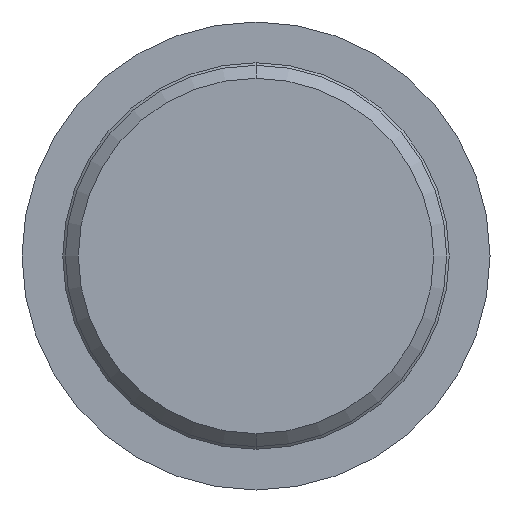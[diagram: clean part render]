
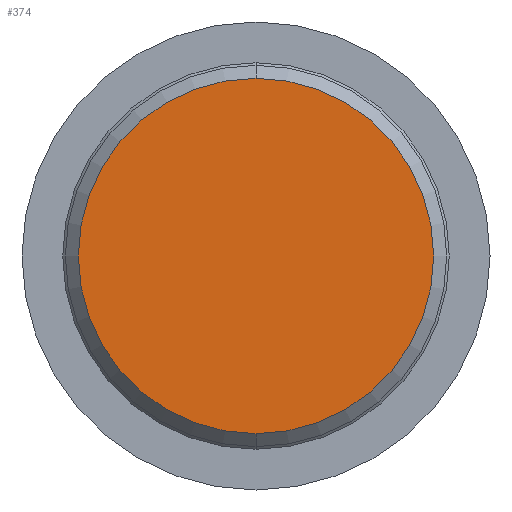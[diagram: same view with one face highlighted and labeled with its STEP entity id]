
A CAD part, front view. The second image highlights one B-rep face of the part: STEP entity #374.
In plain terms, the highlighted planar face has unit normal (0, -1, 0).
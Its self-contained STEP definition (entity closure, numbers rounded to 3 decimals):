
#9 = EDGE_CURVE ( 'NONE', #747, #124, #607, .T. ) ;
#16 = EDGE_LOOP ( 'NONE', ( #514, #234 ) ) ;
#36 = AXIS2_PLACEMENT_3D ( 'NONE', #108, #233, #413 ) ;
#108 = CARTESIAN_POINT ( 'NONE',  ( 10.25, 0., 0. ) ) ;
#124 = VERTEX_POINT ( 'NONE', #610 ) ;
#137 = DIRECTION ( 'NONE',  ( 0., 1., 0. ) ) ;
#159 = DIRECTION ( 'NONE',  ( 0., 0., 1. ) ) ;
#193 = AXIS2_PLACEMENT_3D ( 'NONE', #213, #634, #159 ) ;
#206 = EDGE_CURVE ( 'NONE', #124, #747, #363, .T. ) ;
#213 = CARTESIAN_POINT ( 'NONE',  ( 0., 0., 0. ) ) ;
#233 = DIRECTION ( 'NONE',  ( 0., 1., 0. ) ) ;
#234 = ORIENTED_EDGE ( 'NONE', *, *, #206, .F. ) ;
#252 = CARTESIAN_POINT ( 'NONE',  ( 0., 0., 10.25 ) ) ;
#275 = AXIS2_PLACEMENT_3D ( 'NONE', #314, #137, #669 ) ;
#314 = CARTESIAN_POINT ( 'NONE',  ( 0., 0., 0. ) ) ;
#363 = CIRCLE ( 'NONE', #193, 10.25 ) ;
#374 = ADVANCED_FACE ( 'NONE', ( #415 ), #702, .F. ) ;
#413 = DIRECTION ( 'NONE',  ( 0., 0., 1. ) ) ;
#415 = FACE_OUTER_BOUND ( 'NONE', #16, .T. ) ;
#514 = ORIENTED_EDGE ( 'NONE', *, *, #9, .F. ) ;
#607 = CIRCLE ( 'NONE', #275, 10.25 ) ;
#610 = CARTESIAN_POINT ( 'NONE',  ( 0., 0., -10.25 ) ) ;
#634 = DIRECTION ( 'NONE',  ( 0., 1., 0. ) ) ;
#669 = DIRECTION ( 'NONE',  ( 0., 0., 1. ) ) ;
#702 = PLANE ( 'NONE',  #36 ) ;
#747 = VERTEX_POINT ( 'NONE', #252 ) ;
